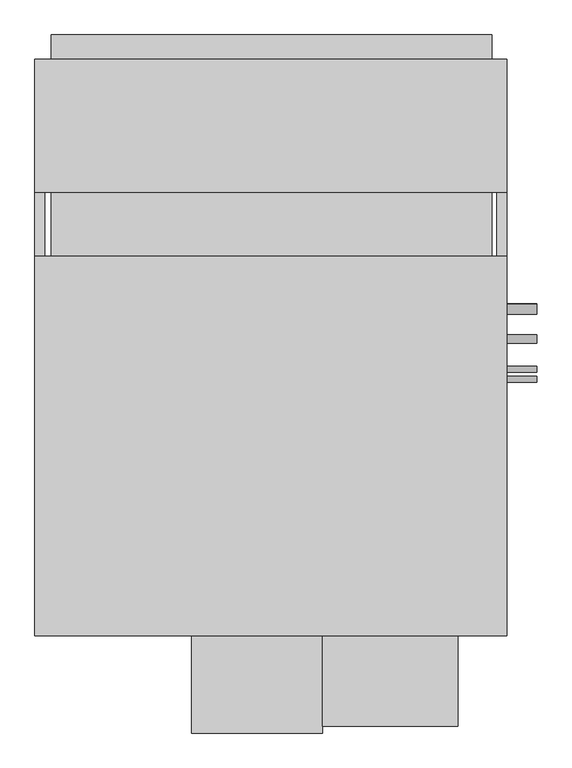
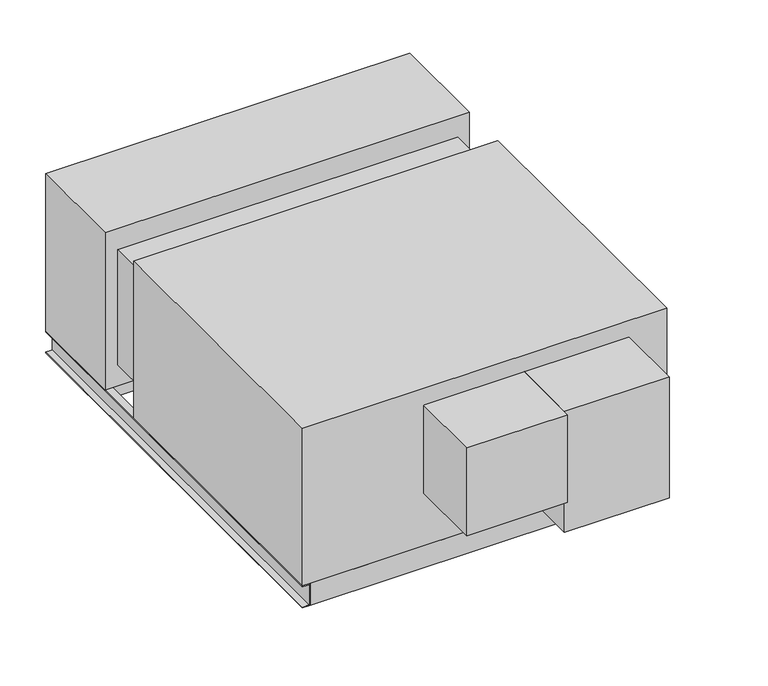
"""IFC4 building model written with IfcOpenShell, lengths in millimetres: proxy geometry, Horizontal_Direct_Drive_Blower_Coil_Unit_-_42DHA_-_CARRIER_-_4-Pipe_NFilterR_W-MixingBox_RH_2022 : Size 16 - 460v/60Hz/3Ph - 6/2 Coil."""

from ifc_helpers import new_model, si_unit, point, frame, frame_2d, origin, place, context, project, spatial, polyline, circle_curve, trimmed, segment, composite_curve, outline, extrude, source, transform, mapped, element, save


def mechanical_equipment_b177c8d8(model_context):
    return source(origin(), model_context, "Body", "SweptSolid", [
        extrude(outline(polyline([(88.9, 889.635), (88.9, 686.435), (-1025.525, 686.435), (-1025.525, 889.635), (88.9, 889.635)])), frame((0.0, 0.0, -607.06), z_axis=(0.0, 0.0, 1.0), x_axis=(1.0, 0.0, 0.0)), (0.0, 0.0, 1.0), 60.96),
        extrude(outline(polyline([(-1025.525, 1052.195), (88.9, 1052.195), (88.9, 991.235), (-1025.525, 991.235), (-1025.525, 1052.195)])), frame((0.0, 0.0, -279.4), z_axis=(0.0, 0.0, 1.0), x_axis=(1.0, 0.0, 0.0)), (0.0, 0.0, 1.0), 203.2),
        extrude(outline(polyline([(127.0, 991.235), (127.0, 654.05), (-1066.8, 654.05), (-1066.8, 991.235), (127.0, 991.235)])), frame((0.0, 0.0, -546.1), z_axis=(0.0, 0.0, 1.0), x_axis=(1.0, 0.0, 0.0)), (0.0, 0.0, 1.0), 546.1),
        extrude(outline(polyline([(101.6, -441.325), (101.6, -466.725), (-1041.4, -466.725), (-1041.4, -441.325), (101.6, -441.325)])), frame((0.0, 0.0, -622.3), z_axis=(0.0, 0.0, 1.0), x_axis=(1.0, 0.0, 0.0)), (0.0, 0.0, 1.0), 76.2),
        extrude(outline(polyline([(101.6, 991.235), (101.6, 965.835), (-1041.4, 965.835), (-1041.4, 991.235), (101.6, 991.235)])), frame((0.0, 0.0, -622.3), z_axis=(0.0, 0.0, 1.0), x_axis=(1.0, 0.0, 0.0)), (0.0, 0.0, 1.0), 76.2),
        extrude(outline(polyline([(-546.1, -1041.4), (-546.1, -1066.8), (-549.275, -1066.8), (-549.275, -1044.575), (-619.125, -1044.575), (-619.125, -1066.8), (-622.3, -1066.8), (-622.3, -1041.4), (-546.1, -1041.4)])), frame((0.0, -466.725, 0.0), z_axis=(0.0, 1.0, 0.0), x_axis=(0.0, 0.0, 1.0)), (0.0, 0.0, 1.0), 1457.96),
        extrude(outline(polyline([(-546.1, 101.6), (-622.3, 101.6), (-622.3, 127.0), (-619.125, 127.0), (-619.125, 104.775), (-549.275, 104.775), (-549.275, 127.0), (-546.1, 127.0), (-546.1, 101.6)])), frame((0.0, -466.725, 0.0), z_axis=(0.0, 1.0, 0.0), x_axis=(0.0, 0.0, 1.0)), (0.0, 0.0, 1.0), 1457.96),
        extrude(outline(composite_curve([segment(trimmed(circle_curve(frame_2d((358.775, -177.8)), 12.7), [point((371.475, -177.8))], [point((346.075, -177.8))], False, "CARTESIAN"), True, "CONTINUOUS"), segment(trimmed(circle_curve(frame_2d((358.775, -177.8)), 12.7), [point((346.075, -177.8))], [point((371.475, -177.8))], False, "CARTESIAN"), True, "CONTINUOUS")], self_intersect=False)), frame((127.0, 0.0, 0.0), z_axis=(1.0, 0.0, 0.0), x_axis=(0.0, 1.0, 0.0)), (0.0, 0.0, 1.0), 76.2),
        extrude(outline(composite_curve([segment(trimmed(circle_curve(frame_2d((359.642288, -419.1)), 12.7), [point((372.342288, -419.1))], [point((346.942288, -419.1))], False, "CARTESIAN"), True, "CONTINUOUS"), segment(trimmed(circle_curve(frame_2d((359.642288, -419.1)), 12.7), [point((346.942288, -419.1))], [point((372.342288, -419.1))], False, "CARTESIAN"), True, "CONTINUOUS")], self_intersect=False)), frame((127.0, 0.0, 0.0), z_axis=(1.0, 0.0, 0.0), x_axis=(0.0, 1.0, 0.0)), (0.0, 0.0, 1.0), 76.2),
        extrude(outline(composite_curve([segment(trimmed(circle_curve(frame_2d((283.442288, -501.65)), 11.1125), [point((294.554788, -501.65))], [point((272.329788, -501.65))], False, "CARTESIAN"), True, "CONTINUOUS"), segment(trimmed(circle_curve(frame_2d((283.442288, -501.65)), 11.1125), [point((272.329788, -501.65))], [point((294.554788, -501.65))], False, "CARTESIAN"), True, "CONTINUOUS")], self_intersect=False)), frame((127.0, 0.0, 0.0), z_axis=(1.0, 0.0, 0.0), x_axis=(0.0, 1.0, 0.0)), (0.0, 0.0, 1.0), 76.2),
        extrude(outline(composite_curve([segment(trimmed(circle_curve(frame_2d((207.242288, -228.6)), 7.9375), [point((215.179788, -228.6))], [point((199.304788, -228.6))], False, "CARTESIAN"), True, "CONTINUOUS"), segment(trimmed(circle_curve(frame_2d((207.242288, -228.6)), 7.9375), [point((199.304788, -228.6))], [point((215.179788, -228.6))], False, "CARTESIAN"), True, "CONTINUOUS")], self_intersect=False)), frame((127.0, 0.0, 0.0), z_axis=(1.0, 0.0, 0.0), x_axis=(0.0, 1.0, 0.0)), (0.0, 0.0, 1.0), 76.2),
        extrude(outline(composite_curve([segment(trimmed(circle_curve(frame_2d((181.842288, -368.5792556)), 7.9375), [point((189.779788, -368.5792556))], [point((173.904788, -368.5792556))], False, "CARTESIAN"), True, "CONTINUOUS"), segment(trimmed(circle_curve(frame_2d((181.842288, -368.5792556)), 7.9375), [point((173.904788, -368.5792556))], [point((189.779788, -368.5792556))], False, "CARTESIAN"), True, "CONTINUOUS")], self_intersect=False)), frame((127.0, 0.0, 0.0), z_axis=(1.0, 0.0, 0.0), x_axis=(0.0, 1.0, 0.0)), (0.0, 0.0, 1.0), 76.2),
        extrude(outline(polyline([(127.0, 492.125), (127.0, -466.725), (-1066.8, -466.725), (-1066.8, 492.125), (127.0, 492.125)])), frame((0.0, 0.0, -546.1), z_axis=(0.0, 0.0, 1.0), x_axis=(1.0, 0.0, 0.0)), (0.0, 0.0, 1.0), 546.1),
        extrude(outline(polyline([(3.175, -695.325), (-339.725, -695.325), (-339.725, -466.725), (3.175, -466.725), (3.175, -695.325)])), frame((0.0, 0.0, -476.25), z_axis=(0.0, 0.0, 1.0), x_axis=(1.0, 0.0, 0.0)), (0.0, 0.0, 1.0), 419.1),
        extrude(outline(polyline([(-1025.525, 654.05), (88.9, 654.05), (88.9, 492.125), (-1025.525, 492.125), (-1025.525, 654.05)])), frame((0.0, 0.0, -473.075), z_axis=(0.0, 0.0, 1.0), x_axis=(1.0, 0.0, 0.0)), (0.0, 0.0, 1.0), 400.05),
        extrude(outline(polyline([(-339.725, -712.7875), (-669.925, -712.7875), (-669.925, -466.725), (-339.725, -466.725), (-339.725, -712.7875)])), frame((0.0, 0.0, -361.95), z_axis=(0.0, 0.0, 1.0), x_axis=(1.0, 0.0, 0.0)), (0.0, 0.0, 1.0), 304.8),
    ])


if __name__ == "__main__":
    model = new_model("IFC4")
    model_context = context("Model", 3, world=origin())
    ifc_project = project(units=[si_unit("LENGTHUNIT", "METRE", prefix="MILLI")], contexts=[model_context])
    site = spatial("IfcSite", under=ifc_project)
    building = spatial("IfcBuilding", under=site)
    placement = place(None, origin())
    mechanical_equipment_shape = mechanical_equipment_b177c8d8(model_context)
    element("IfcBuildingElementProxy", 1, Name="Horizontal_Direct_Drive_Blower_Coil_Unit_-_42DHA_-_CARRIER_-_4-Pipe_NFilterR_W-MixingBox_RH_2022 : Size 16 - 460v/60Hz/3Ph - 6/2 Coil", ObjectType="Horizontal_Direct_Drive_Blower_Coil_Unit_-_42DHA_-_CARRIER_-_4-Pipe_NFilterR_W-MixingBox_RH_2022 : Size 16 - 460v/60Hz/3Ph - 6/2 Coil", at=placement, inside=building, context=model_context, shape_type="MappedRepresentation", body=[
        mapped(mechanical_equipment_shape, transform((0.0, 0.0, 0.0), x_axis=(1.0, 0.0, 0.0), y_axis=(0.0, 1.0, 0.0), z_axis=(0.0, 0.0, 1.0))),
    ])
    save(model, "model.ifc")
